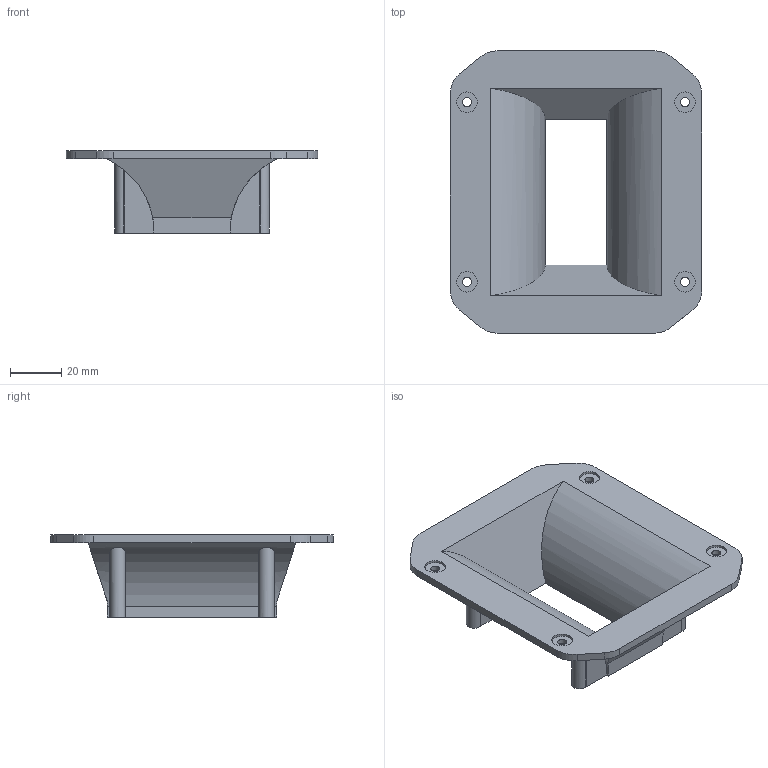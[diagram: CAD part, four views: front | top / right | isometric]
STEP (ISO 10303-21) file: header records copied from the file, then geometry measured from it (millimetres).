
FILE_DESCRIPTION(/* description */ (''),/* implementation_level */ '2;1');
FILE_NAME(/* name */ 'F:\Мои документы\Мои проекты\\X2\041A043E043B043E043D043A0438\X0\\Динамики\FOUNTEK\Neo CD 35H\3D\Волновод FOUNTEK.stp',/* time_stamp */ '2018-02-19T08:35:20+03:00',/* author */ ('USR1CV81'),/* organization */ (''),/* preprocessor_version */ 'ST-DEVELOPER v15.2',/* originating_system */ 'Autodesk Inventor 2014',/* authorisation */ '');
FILE_SCHEMA (('AUTOMOTIVE_DESIGN { 1 0 10303 214 3 1 1 }'));
Length unit declared in the file: millimetre
Products named in the file (1): Волновод FOUNTEK
Bounding box: 98 x 110 x 32 mm (x, y, z)
Volume: 38778.7 mm3; surface area: 32658 mm2
Topology: 1 solids, 1 shells, 103 faces, 266 edges, 178 vertices
Faces by surface type: cylinder 56, plane 47
Full cylindrical faces by diameter (mm): 3.51 x8, 8 x4
Entity records: 3432 total; most frequent: CARTESIAN_POINT 890, DIRECTION 520, ORIENTED_EDGE 504, EDGE_CURVE 252, AXIS2_PLACEMENT_3D 192, VERTEX_POINT 176, EDGE_LOOP 138, LINE 136
